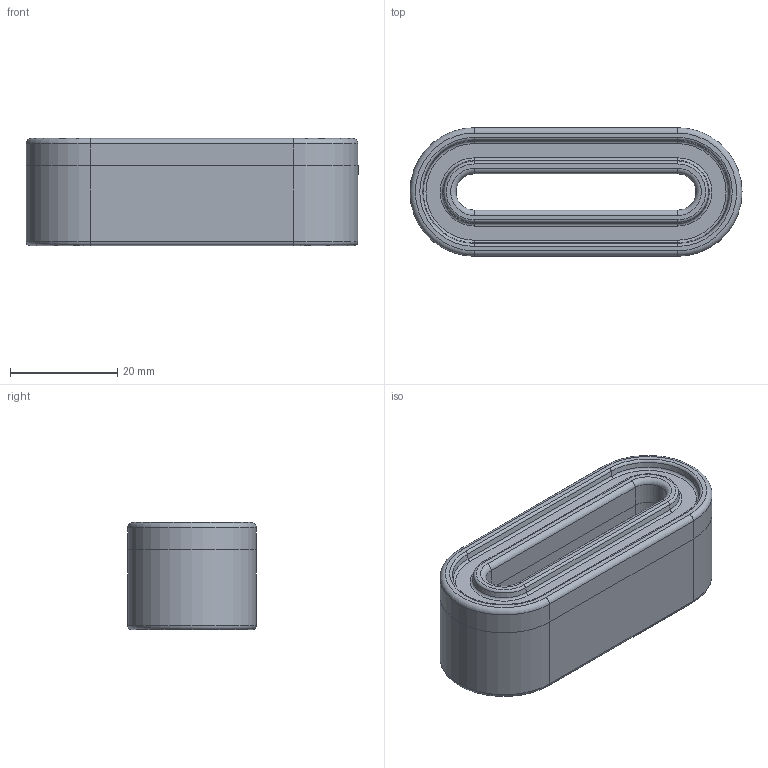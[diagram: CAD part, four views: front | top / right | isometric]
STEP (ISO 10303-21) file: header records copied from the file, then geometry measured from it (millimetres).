
FILE_DESCRIPTION(/* description */ (''),/* implementation_level */ '2;1');
FILE_NAME(/* name */ 'E:\job\working(2021)\02_Design\15.4mm改上盖\K30165-02.stp',/* time_stamp */ '2021-06-07T15:04:06+08:00',/* author */ ('cn000333'),/* organization */ (''),/* preprocessor_version */ 'ST-DEVELOPER v18.1',/* originating_system */ 'Autodesk Inventor 2021',/* authorisation */ '');
FILE_SCHEMA (('AUTOMOTIVE_DESIGN { 1 0 10303 214 3 1 1 }'));
Length unit declared in the file: millimetre
Products named in the file (3): W60000-K0057-C040+C041_ZSB-new2; W60000-K0057-C040_F185_K26240_Trog_new2; W60000-K0057-C041_F186_K26420_Deckel_new2
Assembly tree (2 placements, depth 2):
  W60000-K0057-C040+C041_ZSB-new2
    W60000-K0057-C040_F185_K26240_Trog_new2
    W60000-K0057-C041_F186_K26420_Deckel_new2
Bounding box: 62 x 24 x 20 mm (x, y, z)
Volume: 7724.2 mm3; surface area: 16067.9 mm2
Topology: 2 solids, 2 shells, 622 faces, 1604 edges, 1040 vertices
Faces by surface type: plane 424, bspline 94, cylinder 60, torus 24, cone 20
Entity records: 19254 total; most frequent: CARTESIAN_POINT 4493, ORIENTED_EDGE 3208, DIRECTION 2646, EDGE_CURVE 1604, LINE 1252, VECTOR 1252, VERTEX_POINT 1040, AXIS2_PLACEMENT_3D 697
